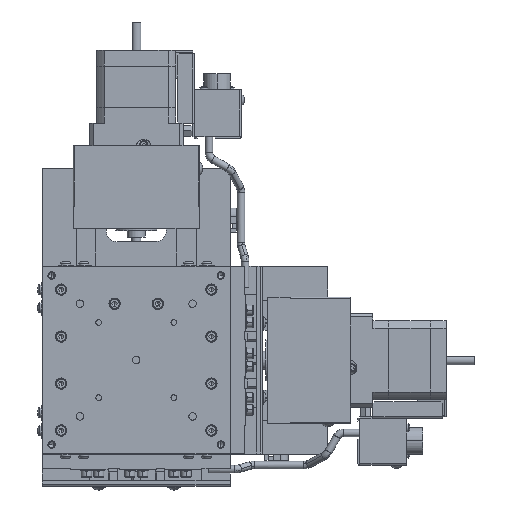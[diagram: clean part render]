
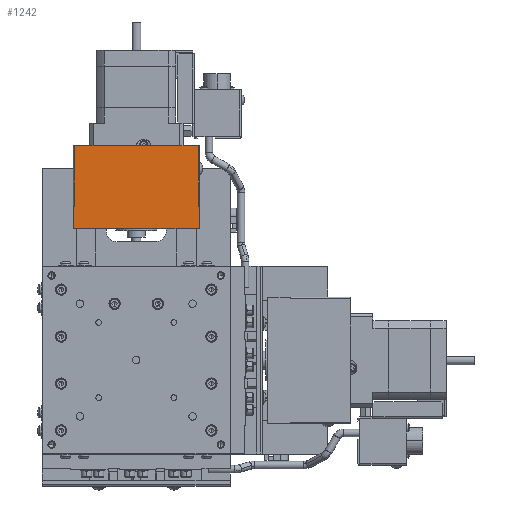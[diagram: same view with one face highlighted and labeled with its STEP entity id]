
A CAD part, top view. The second image highlights one B-rep face of the part: STEP entity #1242.
In plain terms, the highlighted planar face has unit normal (0, 0, 1).
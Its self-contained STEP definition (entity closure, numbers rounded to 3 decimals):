
#1242 = ADVANCED_FACE ( 'NONE', ( #90903 ), #19179, .T. ) ;
#2406 = CARTESIAN_POINT ( 'NONE',  ( -231.094, -14.842, -141.876 ) ) ;
#3307 = EDGE_LOOP ( 'NONE', ( #100358, #110238, #67244, #119517, #58611, #92310, #35377, #66903, #63334, #99446, #81034, #29976 ) ) ;
#6857 = CARTESIAN_POINT ( 'NONE',  ( -275.094, 26.627, -141.876 ) ) ;
#7880 = DIRECTION ( 'NONE',  ( -1., 0., 0. ) ) ;
#8674 = CARTESIAN_POINT ( 'NONE',  ( -231.094, 52.158, -141.876 ) ) ;
#9447 = EDGE_CURVE ( 'NONE', #76402, #39714, #101386, .T. ) ;
#9479 = EDGE_CURVE ( 'NONE', #93807, #107482, #98399, .T. ) ;
#9641 = DIRECTION ( 'NONE',  ( 0., 1., 0. ) ) ;
#10550 = CARTESIAN_POINT ( 'NONE',  ( -275.094, 18.658, -141.876 ) ) ;
#12342 = VERTEX_POINT ( 'NONE', #6857 ) ;
#15605 = VECTOR ( 'NONE', #85124, 1000. ) ;
#17215 = LINE ( 'NONE', #8674, #57154 ) ;
#17563 = CARTESIAN_POINT ( 'NONE',  ( -231.094, 52.158, -141.876 ) ) ;
#19179 = PLANE ( 'NONE',  #71292 ) ;
#21006 = DIRECTION ( 'NONE',  ( -1., 0., 0. ) ) ;
#21219 = VECTOR ( 'NONE', #97807, 1000. ) ;
#23289 = CARTESIAN_POINT ( 'NONE',  ( -275.094, 18.69, -141.876 ) ) ;
#25290 = LINE ( 'NONE', #45714, #73754 ) ;
#27527 = CARTESIAN_POINT ( 'NONE',  ( -275.094, 18.658, -141.876 ) ) ;
#29976 = ORIENTED_EDGE ( 'NONE', *, *, #88333, .T. ) ;
#31222 = CARTESIAN_POINT ( 'NONE',  ( -243.094, 51.658, -141.876 ) ) ;
#31621 = CARTESIAN_POINT ( 'NONE',  ( -275.094, 18.658, -141.876 ) ) ;
#34737 = VECTOR ( 'NONE', #38675, 1000. ) ;
#35377 = ORIENTED_EDGE ( 'NONE', *, *, #63955, .F. ) ;
#35590 = EDGE_CURVE ( 'NONE', #94862, #48343, #99350, .T. ) ;
#37091 = EDGE_CURVE ( 'NONE', #48343, #45595, #17215, .T. ) ;
#37222 = CARTESIAN_POINT ( 'NONE',  ( -275.094, 51.658, -141.876 ) ) ;
#38675 = DIRECTION ( 'NONE',  ( -1., 0., 0. ) ) ;
#39714 = VERTEX_POINT ( 'NONE', #37222 ) ;
#40813 = LINE ( 'NONE', #70519, #51132 ) ;
#43052 = DIRECTION ( 'NONE',  ( 0., 1., 0. ) ) ;
#45595 = VERTEX_POINT ( 'NONE', #102222 ) ;
#45714 = CARTESIAN_POINT ( 'NONE',  ( -259.094, -14.342, -141.876 ) ) ;
#47051 = VERTEX_POINT ( 'NONE', #50507 ) ;
#48059 = VECTOR ( 'NONE', #103428, 1000. ) ;
#48343 = VERTEX_POINT ( 'NONE', #17563 ) ;
#50507 = CARTESIAN_POINT ( 'NONE',  ( -243.094, -14.342, -141.876 ) ) ;
#51132 = VECTOR ( 'NONE', #60621, 1000. ) ;
#55999 = DIRECTION ( 'NONE',  ( 1., 0., 0. ) ) ;
#57154 = VECTOR ( 'NONE', #7880, 1000. ) ;
#58611 = ORIENTED_EDGE ( 'NONE', *, *, #77105, .F. ) ;
#60621 = DIRECTION ( 'NONE',  ( 0., 1., 0. ) ) ;
#63334 = ORIENTED_EDGE ( 'NONE', *, *, #75574, .F. ) ;
#63955 = EDGE_CURVE ( 'NONE', #97755, #39714, #101378, .T. ) ;
#66903 = ORIENTED_EDGE ( 'NONE', *, *, #98780, .F. ) ;
#67244 = ORIENTED_EDGE ( 'NONE', *, *, #35590, .T. ) ;
#67717 = CARTESIAN_POINT ( 'NONE',  ( -231.094, -14.842, -141.876 ) ) ;
#68297 = DIRECTION ( 'NONE',  ( 0., 1., 0. ) ) ;
#69212 = VECTOR ( 'NONE', #43052, 1000. ) ;
#69544 = CARTESIAN_POINT ( 'NONE',  ( -275.094, 43.658, -141.876 ) ) ;
#69734 = VECTOR ( 'NONE', #114973, 1000. ) ;
#70519 = CARTESIAN_POINT ( 'NONE',  ( -275.094, 18.658, -141.876 ) ) ;
#71292 = AXIS2_PLACEMENT_3D ( 'NONE', #94084, #112794, #114019 ) ;
#71658 = EDGE_CURVE ( 'NONE', #107482, #98035, #117611, .T. ) ;
#72698 = EDGE_CURVE ( 'NONE', #94862, #118947, #93490, .T. ) ;
#73754 = VECTOR ( 'NONE', #55999, 1000. ) ;
#75574 = EDGE_CURVE ( 'NONE', #98035, #12342, #40813, .T. ) ;
#76402 = VERTEX_POINT ( 'NONE', #31222 ) ;
#76411 = CARTESIAN_POINT ( 'NONE',  ( -275.094, 18.658, -141.876 ) ) ;
#77105 = EDGE_CURVE ( 'NONE', #76402, #45595, #122077, .T. ) ;
#80704 = VECTOR ( 'NONE', #9641, 1000. ) ;
#81034 = ORIENTED_EDGE ( 'NONE', *, *, #9479, .F. ) ;
#81107 = LINE ( 'NONE', #118509, #69212 ) ;
#85124 = DIRECTION ( 'NONE',  ( 0., 1., 0. ) ) ;
#86386 = VECTOR ( 'NONE', #68297, 1000. ) ;
#87861 = CARTESIAN_POINT ( 'NONE',  ( -259.094, 51.658, -141.876 ) ) ;
#88333 = EDGE_CURVE ( 'NONE', #93807, #47051, #25290, .T. ) ;
#89796 = EDGE_CURVE ( 'NONE', #118947, #47051, #81107, .T. ) ;
#90903 = FACE_OUTER_BOUND ( 'NONE', #3307, .T. ) ;
#92310 = ORIENTED_EDGE ( 'NONE', *, *, #9447, .T. ) ;
#93490 = LINE ( 'NONE', #2406, #112812 ) ;
#93807 = VERTEX_POINT ( 'NONE', #113757 ) ;
#94084 = CARTESIAN_POINT ( 'NONE',  ( -231.094, -14.842, -141.876 ) ) ;
#94392 = CARTESIAN_POINT ( 'NONE',  ( -231.094, -14.842, -141.876 ) ) ;
#94862 = VERTEX_POINT ( 'NONE', #94392 ) ;
#97755 = VERTEX_POINT ( 'NONE', #69544 ) ;
#97807 = DIRECTION ( 'NONE',  ( 0., 1., 0. ) ) ;
#98035 = VERTEX_POINT ( 'NONE', #23289 ) ;
#98399 = LINE ( 'NONE', #10550, #48059 ) ;
#98780 = EDGE_CURVE ( 'NONE', #12342, #97755, #113386, .T. ) ;
#99350 = LINE ( 'NONE', #67717, #69734 ) ;
#99446 = ORIENTED_EDGE ( 'NONE', *, *, #71658, .F. ) ;
#100358 = ORIENTED_EDGE ( 'NONE', *, *, #89796, .F. ) ;
#101378 = LINE ( 'NONE', #27527, #80704 ) ;
#101386 = LINE ( 'NONE', #87861, #34737 ) ;
#102222 = CARTESIAN_POINT ( 'NONE',  ( -243.094, 52.158, -141.876 ) ) ;
#103428 = DIRECTION ( 'NONE',  ( 0., 1., 0. ) ) ;
#106431 = CARTESIAN_POINT ( 'NONE',  ( -243.094, -14.842, -141.876 ) ) ;
#107482 = VERTEX_POINT ( 'NONE', #112897 ) ;
#110238 = ORIENTED_EDGE ( 'NONE', *, *, #72698, .F. ) ;
#112794 = DIRECTION ( 'NONE',  ( 0., 0., 1. ) ) ;
#112812 = VECTOR ( 'NONE', #21006, 1000. ) ;
#112897 = CARTESIAN_POINT ( 'NONE',  ( -275.094, -6.342, -141.876 ) ) ;
#113386 = LINE ( 'NONE', #76411, #15605 ) ;
#113757 = CARTESIAN_POINT ( 'NONE',  ( -275.094, -14.342, -141.876 ) ) ;
#114019 = DIRECTION ( 'NONE',  ( -1., 0., 0. ) ) ;
#114973 = DIRECTION ( 'NONE',  ( 0., 1., 0. ) ) ;
#116813 = CARTESIAN_POINT ( 'NONE',  ( -243.094, -14.842, -141.876 ) ) ;
#117611 = LINE ( 'NONE', #31621, #21219 ) ;
#118509 = CARTESIAN_POINT ( 'NONE',  ( -243.094, -14.842, -141.876 ) ) ;
#118947 = VERTEX_POINT ( 'NONE', #116813 ) ;
#119517 = ORIENTED_EDGE ( 'NONE', *, *, #37091, .T. ) ;
#122077 = LINE ( 'NONE', #106431, #86386 ) ;
